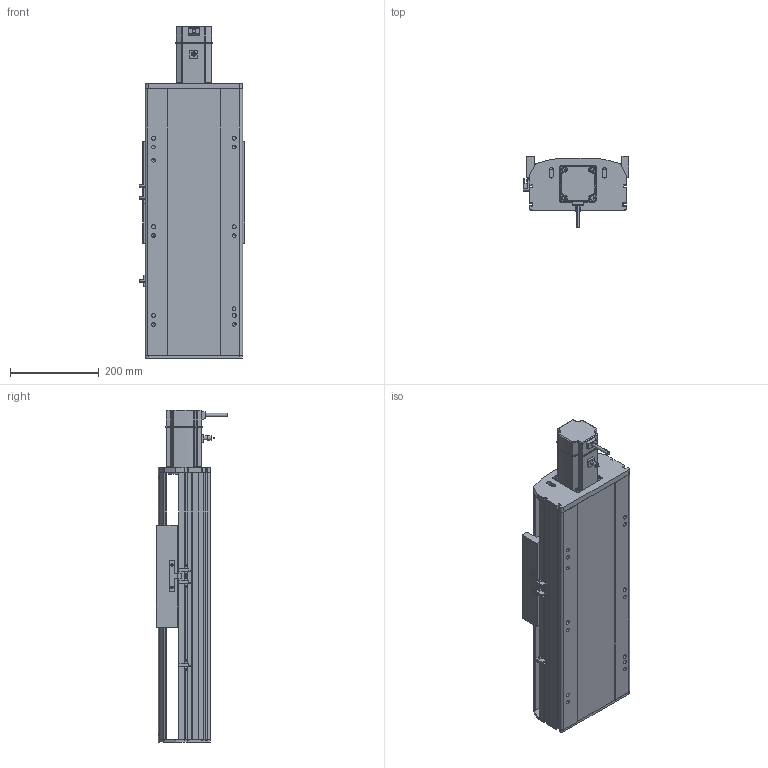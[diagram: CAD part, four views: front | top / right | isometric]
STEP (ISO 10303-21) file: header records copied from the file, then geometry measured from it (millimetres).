
FILE_DESCRIPTION (( 'STEP AP214' ), '1' );
FILE_NAME ('RTH22-XX-200-E-M75-C4.STEP', '2025-10-24T10:41:18', ( 'Microsoft' ), ( 'Microsoft' ), 'SwSTEP 2.0', 'SolidWorks 2018', '' );
FILE_SCHEMA (( 'AUTOMOTIVE_DESIGN' ));
Length unit declared in the file: millimetre
Products named in the file (9): N_RTH22-GY-013外置感应片^RTH22-XX-XX-E-M75-C4; N_RTH22-E-008萇儂啣^RTH22-XX-XX-E-M75-C4; N_RTH22-E-004-SFS25賑釱^RTH22-XX-XX-E-M75-C4; N_OMRON EE-SX672 传感器^RTH22-XX-XX-E-M75-C4; N_RTH22-E-007奻裔^RTH22-XX-XX-E-M75-C4; N_RTH22-E-011菁釱^RTH22-XX-XX-E-M75-C4; N_750W萇儂^RTH22-XX-XX-E-M75-C4; RTH22-XX-200-E-M75-C4; N_RTH22-GY-001耜裔^RTH22-XX-XX-E-M75-C4
Assembly tree (10 placements, depth 2):
  RTH22-XX-200-E-M75-C4
    N_RTH22-E-011菁釱^RTH22-XX-XX-E-M75-C4
    N_RTH22-GY-001耜裔^RTH22-XX-XX-E-M75-C4
    N_RTH22-E-008萇儂啣^RTH22-XX-XX-E-M75-C4
    N_RTH22-E-007奻裔^RTH22-XX-XX-E-M75-C4
    N_RTH22-GY-013外置感应片^RTH22-XX-XX-E-M75-C4
    N_RTH22-E-004-SFS25賑釱^RTH22-XX-XX-E-M75-C4
    N_750W萇儂^RTH22-XX-XX-E-M75-C4
    N_OMRON EE-SX672 传感器^RTH22-XX-XX-E-M75-C4  x3
Bounding box: 238.5 x 160.7 x 749 mm (x, y, z)
Volume: 10074337.8 mm3; surface area: 1084539.7 mm2
Topology: 10 solids, 10 shells, 1469 faces, 4024 edges, 2609 vertices
Faces by surface type: plane 748, cylinder 400, bspline 279, cone 42
Entity records: 35831 total; most frequent: CARTESIAN_POINT 11385, ORIENTED_EDGE 5056, DIRECTION 4674, EDGE_CURVE 2528, VERTEX_POINT 1645, LINE 1590, VECTOR 1590, AXIS2_PLACEMENT_3D 1542
